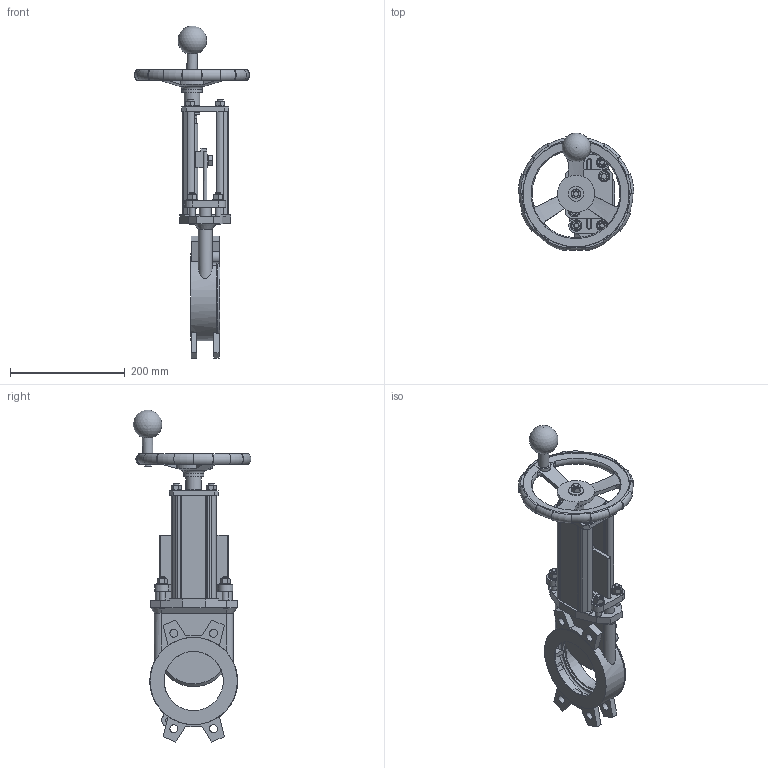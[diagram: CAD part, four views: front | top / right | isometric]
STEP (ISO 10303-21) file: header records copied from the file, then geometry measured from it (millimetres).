
FILE_DESCRIPTION( ( 'STEP AP203' ), '1' );
FILE_NAME( 'G:/KONSTRUK/3-d block för CD/MV VALVE/HAND WHEEL/MV100-PN10-HW.stp', ' ', ( ' ' ), ( ' ' ), 'XStep 1.0', ' ', ' ' );
FILE_SCHEMA( ( 'CONFIG_CONTROL_DESIGN' ) );
Length unit declared in the file: metre
Products named in the file (1): 1
Bounding box: 201.92 x 204.89 x 578.21 mm (x, y, z)
Volume: 1529407.8 mm3; surface area: 504374.5 mm2
Topology: 1 solids, 3 shells, 773 faces, 1914 edges, 1226 vertices
Faces by surface type: plane 401, cylinder 179, cone 154, torus 26, bspline 12, sphere 1
Full cylindrical faces by diameter (mm): 6.75 x1, 8.5 x4, 10 x19, 10.25 x1, 10.791 x9, 11 x4, 12 x6, 12.793 x1, 14 x8, 15 x3, 17 x1, 18 x1, 19.4 x1, 19.5 x1, 19.715 x8, 20 x2, 24 x1, 26.35 x1, 27 x2, 27.5 x2, 35 x1, 103 x2, 109 x1, 115 x1, 119 x1, 123 x1, 142 x1, 152 x1, 153 x1, 185 x2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
Entity records: 27860 total; most frequent: CARTESIAN_POINT 10503, DIRECTION 3536, ORIENTED_EDGE 3456, EDGE_CURVE 1728, AXIS2_PLACEMENT_3D 1406, VERTEX_POINT 1159, EDGE_LOOP 1015, FACE_OUTER_BOUND 864
